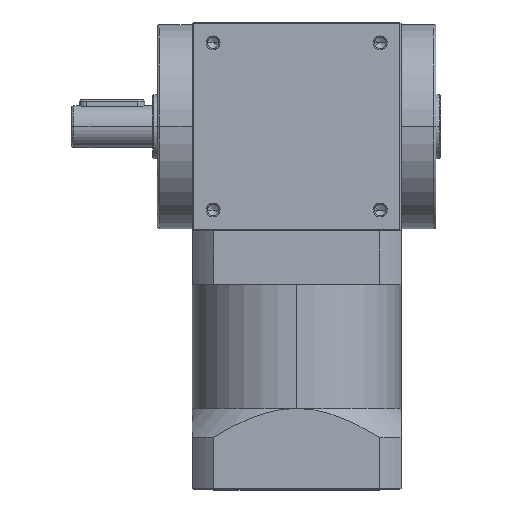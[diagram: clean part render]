
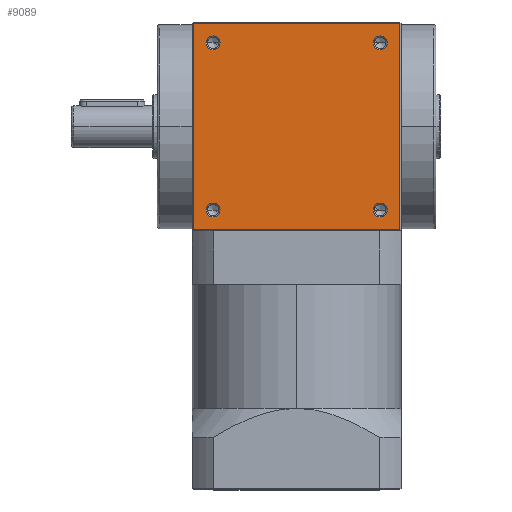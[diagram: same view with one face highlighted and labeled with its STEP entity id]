
A CAD part, top view. The second image highlights one B-rep face of the part: STEP entity #9089.
In plain terms, the highlighted planar face has unit normal (0, 0, 1).
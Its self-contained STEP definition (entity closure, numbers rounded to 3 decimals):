
#123 = VERTEX_POINT ( 'NONE', #6300 ) ;
#149 = ORIENTED_EDGE ( 'NONE', *, *, #7705, .T. ) ;
#157 = VERTEX_POINT ( 'NONE', #1170 ) ;
#375 = DIRECTION ( 'NONE',  ( 0., -1., 0. ) ) ;
#470 = FACE_BOUND ( 'NONE', #6081, .T. ) ;
#566 = LINE ( 'NONE', #7196, #3212 ) ;
#621 = DIRECTION ( 'NONE',  ( 0., 1., 0. ) ) ;
#644 = AXIS2_PLACEMENT_3D ( 'NONE', #1492, #3055, #6852 ) ;
#756 = AXIS2_PLACEMENT_3D ( 'NONE', #2366, #7701, #815 ) ;
#815 = DIRECTION ( 'NONE',  ( -1., 0., 0. ) ) ;
#1160 = DIRECTION ( 'NONE',  ( 0., 0., -1. ) ) ;
#1170 = CARTESIAN_POINT ( 'NONE',  ( -44.5, -44.5, 45. ) ) ;
#1492 = CARTESIAN_POINT ( 'NONE',  ( 0., 0., 45. ) ) ;
#1643 = EDGE_CURVE ( 'NONE', #2365, #5190, #4387, .T. ) ;
#1668 = CARTESIAN_POINT ( 'NONE',  ( -33., -36., 45. ) ) ;
#1684 = AXIS2_PLACEMENT_3D ( 'NONE', #4358, #2086, #9716 ) ;
#1769 = FACE_BOUND ( 'NONE', #6605, .T. ) ;
#1859 = AXIS2_PLACEMENT_3D ( 'NONE', #4234, #1160, #3492 ) ;
#1906 = ORIENTED_EDGE ( 'NONE', *, *, #3242, .T. ) ;
#1960 = ORIENTED_EDGE ( 'NONE', *, *, #6823, .T. ) ;
#2086 = DIRECTION ( 'NONE',  ( 0., 0., -1. ) ) ;
#2365 = VERTEX_POINT ( 'NONE', #8465 ) ;
#2366 = CARTESIAN_POINT ( 'NONE',  ( -36., -36., 45. ) ) ;
#2620 = CARTESIAN_POINT ( 'NONE',  ( 36., -36., 45. ) ) ;
#2659 = EDGE_CURVE ( 'NONE', #123, #5298, #8890, .T. ) ;
#2694 = CARTESIAN_POINT ( 'NONE',  ( -36., -36., 45. ) ) ;
#3005 = FACE_BOUND ( 'NONE', #8209, .T. ) ;
#3055 = DIRECTION ( 'NONE',  ( 0., 0., -1. ) ) ;
#3086 = EDGE_CURVE ( 'NONE', #6406, #4190, #6733, .T. ) ;
#3212 = VECTOR ( 'NONE', #375, 1000. ) ;
#3242 = EDGE_CURVE ( 'NONE', #4190, #6406, #8499, .T. ) ;
#3356 = CARTESIAN_POINT ( 'NONE',  ( -33., 36., 45. ) ) ;
#3361 = EDGE_LOOP ( 'NONE', ( #8246, #1960, #7781, #9429 ) ) ;
#3391 = CIRCLE ( 'NONE', #5837, 3. ) ;
#3471 = DIRECTION ( 'NONE',  ( -1., 0., 0. ) ) ;
#3474 = ORIENTED_EDGE ( 'NONE', *, *, #3872, .T. ) ;
#3492 = DIRECTION ( 'NONE',  ( -1., 0., 0. ) ) ;
#3500 = DIRECTION ( 'NONE',  ( -1., 0., 0. ) ) ;
#3687 = EDGE_CURVE ( 'NONE', #5055, #7670, #8006, .T. ) ;
#3805 = VECTOR ( 'NONE', #621, 1000. ) ;
#3872 = EDGE_CURVE ( 'NONE', #8970, #7358, #9321, .T. ) ;
#4175 = DIRECTION ( 'NONE',  ( 0., 0., -1. ) ) ;
#4190 = VERTEX_POINT ( 'NONE', #9938 ) ;
#4234 = CARTESIAN_POINT ( 'NONE',  ( 36., -36., 45. ) ) ;
#4358 = CARTESIAN_POINT ( 'NONE',  ( -36., 36., 45. ) ) ;
#4379 = DIRECTION ( 'NONE',  ( 0., 0., -1. ) ) ;
#4387 = CIRCLE ( 'NONE', #1859, 3. ) ;
#4495 = CIRCLE ( 'NONE', #9812, 3. ) ;
#4862 = CARTESIAN_POINT ( 'NONE',  ( 0., -44.5, 45. ) ) ;
#4888 = DIRECTION ( 'NONE',  ( -1., 0., 0. ) ) ;
#4938 = LINE ( 'NONE', #4862, #7598 ) ;
#5055 = VERTEX_POINT ( 'NONE', #7012 ) ;
#5122 = DIRECTION ( 'NONE',  ( -1., 0., 0. ) ) ;
#5190 = VERTEX_POINT ( 'NONE', #8039 ) ;
#5242 = CARTESIAN_POINT ( 'NONE',  ( 44.5, 44.5, 45. ) ) ;
#5298 = VERTEX_POINT ( 'NONE', #9172 ) ;
#5837 = AXIS2_PLACEMENT_3D ( 'NONE', #8096, #8824, #3500 ) ;
#5912 = CARTESIAN_POINT ( 'NONE',  ( -44.5, 44.5, 45. ) ) ;
#5977 = DIRECTION ( 'NONE',  ( -1., 0., 0. ) ) ;
#6081 = EDGE_LOOP ( 'NONE', ( #9173, #1906 ) ) ;
#6129 = CARTESIAN_POINT ( 'NONE',  ( 44.5, 0., 45. ) ) ;
#6220 = ORIENTED_EDGE ( 'NONE', *, *, #1643, .T. ) ;
#6300 = CARTESIAN_POINT ( 'NONE',  ( 33., 36., 45. ) ) ;
#6344 = AXIS2_PLACEMENT_3D ( 'NONE', #8942, #9725, #5122 ) ;
#6406 = VERTEX_POINT ( 'NONE', #3356 ) ;
#6605 = EDGE_LOOP ( 'NONE', ( #149, #3474 ) ) ;
#6690 = DIRECTION ( 'NONE',  ( -1., 0., 0. ) ) ;
#6733 = CIRCLE ( 'NONE', #6344, 3. ) ;
#6743 = ORIENTED_EDGE ( 'NONE', *, *, #8243, .T. ) ;
#6762 = CARTESIAN_POINT ( 'NONE',  ( -39., -36., 45. ) ) ;
#6823 = EDGE_CURVE ( 'NONE', #157, #5055, #4938, .T. ) ;
#6852 = DIRECTION ( 'NONE',  ( -1., 0., 0. ) ) ;
#6860 = ORIENTED_EDGE ( 'NONE', *, *, #2659, .T. ) ;
#6922 = EDGE_LOOP ( 'NONE', ( #8645, #6220 ) ) ;
#6932 = EDGE_CURVE ( 'NONE', #7670, #8963, #7747, .T. ) ;
#7012 = CARTESIAN_POINT ( 'NONE',  ( 44.5, -44.5, 45. ) ) ;
#7106 = AXIS2_PLACEMENT_3D ( 'NONE', #8290, #4379, #5977 ) ;
#7196 = CARTESIAN_POINT ( 'NONE',  ( -44.5, 0., 45. ) ) ;
#7358 = VERTEX_POINT ( 'NONE', #1668 ) ;
#7405 = VECTOR ( 'NONE', #6690, 1000. ) ;
#7480 = EDGE_CURVE ( 'NONE', #5190, #2365, #4495, .T. ) ;
#7598 = VECTOR ( 'NONE', #7977, 1000. ) ;
#7670 = VERTEX_POINT ( 'NONE', #5242 ) ;
#7701 = DIRECTION ( 'NONE',  ( 0., 0., -1. ) ) ;
#7705 = EDGE_CURVE ( 'NONE', #7358, #8970, #9165, .T. ) ;
#7747 = LINE ( 'NONE', #8912, #7405 ) ;
#7781 = ORIENTED_EDGE ( 'NONE', *, *, #3687, .T. ) ;
#7977 = DIRECTION ( 'NONE',  ( 1., 0., 0. ) ) ;
#8006 = LINE ( 'NONE', #6129, #3805 ) ;
#8039 = CARTESIAN_POINT ( 'NONE',  ( 39., -36., 45. ) ) ;
#8096 = CARTESIAN_POINT ( 'NONE',  ( 36., 36., 45. ) ) ;
#8162 = FACE_OUTER_BOUND ( 'NONE', #3361, .T. ) ;
#8209 = EDGE_LOOP ( 'NONE', ( #6743, #6860 ) ) ;
#8213 = AXIS2_PLACEMENT_3D ( 'NONE', #2694, #9578, #4888 ) ;
#8243 = EDGE_CURVE ( 'NONE', #5298, #123, #3391, .T. ) ;
#8246 = ORIENTED_EDGE ( 'NONE', *, *, #9741, .T. ) ;
#8290 = CARTESIAN_POINT ( 'NONE',  ( 36., 36., 45. ) ) ;
#8465 = CARTESIAN_POINT ( 'NONE',  ( 33., -36., 45. ) ) ;
#8499 = CIRCLE ( 'NONE', #1684, 3. ) ;
#8645 = ORIENTED_EDGE ( 'NONE', *, *, #7480, .T. ) ;
#8824 = DIRECTION ( 'NONE',  ( 0., 0., -1. ) ) ;
#8890 = CIRCLE ( 'NONE', #7106, 3. ) ;
#8912 = CARTESIAN_POINT ( 'NONE',  ( 0., 44.5, 45. ) ) ;
#8942 = CARTESIAN_POINT ( 'NONE',  ( -36., 36., 45. ) ) ;
#8963 = VERTEX_POINT ( 'NONE', #5912 ) ;
#8970 = VERTEX_POINT ( 'NONE', #6762 ) ;
#9089 = ADVANCED_FACE ( 'NONE', ( #8162, #9956, #1769, #3005, #470 ), #9889, .F. ) ;
#9165 = CIRCLE ( 'NONE', #756, 3. ) ;
#9172 = CARTESIAN_POINT ( 'NONE',  ( 39., 36., 45. ) ) ;
#9173 = ORIENTED_EDGE ( 'NONE', *, *, #3086, .T. ) ;
#9321 = CIRCLE ( 'NONE', #8213, 3. ) ;
#9429 = ORIENTED_EDGE ( 'NONE', *, *, #6932, .T. ) ;
#9578 = DIRECTION ( 'NONE',  ( 0., 0., -1. ) ) ;
#9716 = DIRECTION ( 'NONE',  ( -1., 0., 0. ) ) ;
#9725 = DIRECTION ( 'NONE',  ( 0., 0., -1. ) ) ;
#9741 = EDGE_CURVE ( 'NONE', #8963, #157, #566, .T. ) ;
#9812 = AXIS2_PLACEMENT_3D ( 'NONE', #2620, #4175, #3471 ) ;
#9889 = PLANE ( 'NONE',  #644 ) ;
#9938 = CARTESIAN_POINT ( 'NONE',  ( -39., 36., 45. ) ) ;
#9956 = FACE_BOUND ( 'NONE', #6922, .T. ) ;
